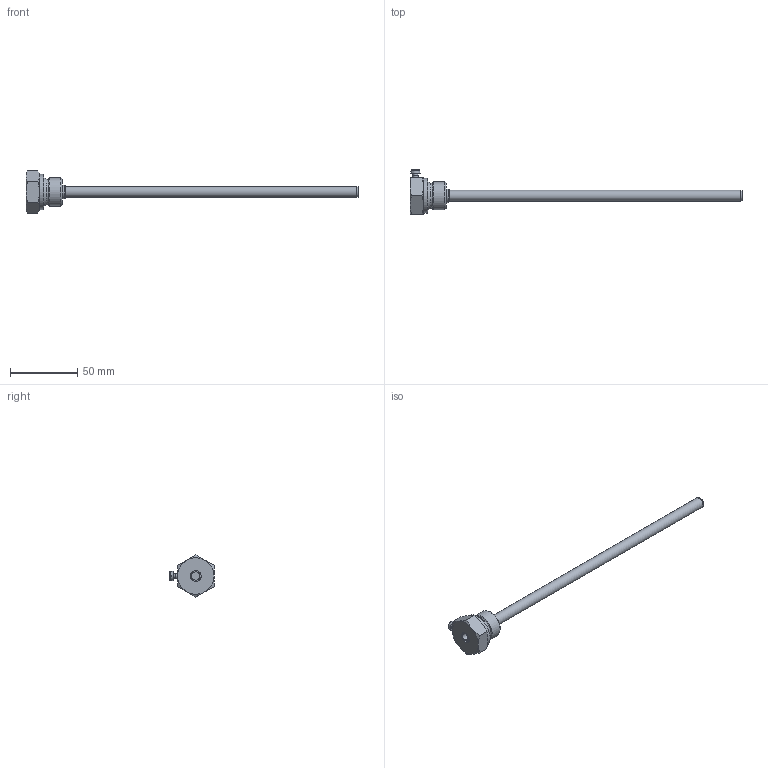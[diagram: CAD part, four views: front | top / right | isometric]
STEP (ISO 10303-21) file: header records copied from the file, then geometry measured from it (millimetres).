
FILE_DESCRIPTION( ( 'STEP AP203' ), ' ' );
FILE_NAME( 'p:/temp/worker_329/3292_3332/app_57_02015121814235849903083192d056f_000000_00_00_000000/format_2/E37643.stp', '2015-12-18T13:23:59', ( '' ), ( '' ), ' ', 'PARTsolutions', ' ' );
FILE_SCHEMA( ( 'CONFIG_CONTROL_DESIGN' ) );
Length unit declared in the file: millimetre
Products named in the file (1): _E37643
Bounding box: 246 x 32.65 x 31.18 mm (x, y, z)
Volume: 16106.8 mm3; surface area: 13800.1 mm2
Topology: 1 solids, 1 shells, 58 faces, 125 edges, 77 vertices
Faces by surface type: plane 28, cone 19, cylinder 8, torus 3
Full cylindrical faces by diameter (mm): 4 x1, 6.22 x1, 7.5 x1, 8 x2, 10 x1, 20.955 x1, 26 x1
Entity records: 1618 total; most frequent: CARTESIAN_POINT 419, DIRECTION 240, ORIENTED_EDGE 212, AXIS2_PLACEMENT_3D 107, EDGE_CURVE 106, EDGE_LOOP 82, VERTEX_POINT 74, FACE_OUTER_BOUND 69
